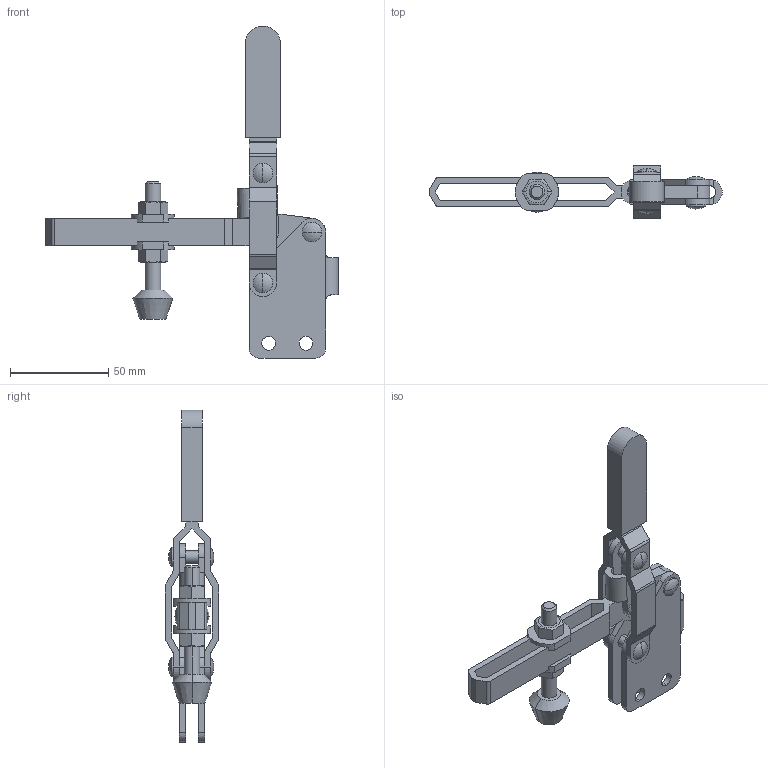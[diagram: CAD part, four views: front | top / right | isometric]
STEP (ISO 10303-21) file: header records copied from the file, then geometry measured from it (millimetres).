
FILE_DESCRIPTION(('CATIA V5 STEP Exchange'),'2;1');
FILE_NAME('D:\Model\toggle\toggle_standard\KJF_018_12S.stp','2005-06-24T04:57:22+00:00',('none'),('none'),'CATIA Version 5 Release 11 (IN-9)','CATIA V5 STEP AP203',' none');
FILE_SCHEMA(('CONFIG_CONTROL_DESIGN'));
Length unit declared in the file: millimetre
Products named in the file (1): Part1
Bounding box: 149 x 27.2 x 169.2 mm (x, y, z)
Volume: 61054.5 mm3; surface area: 40756.9 mm2
Topology: 13 solids, 13 shells, 271 faces, 705 edges, 454 vertices
Faces by surface type: plane 126, cylinder 115, sphere 20, cone 6, torus 4
Entity records: 7907 total; most frequent: CARTESIAN_POINT 1573, ORIENTED_EDGE 1378, DIRECTION 1063, EDGE_CURVE 689, AXIS2_PLACEMENT_3D 488, VERTEX_POINT 454, VECTOR 377, LINE 377
